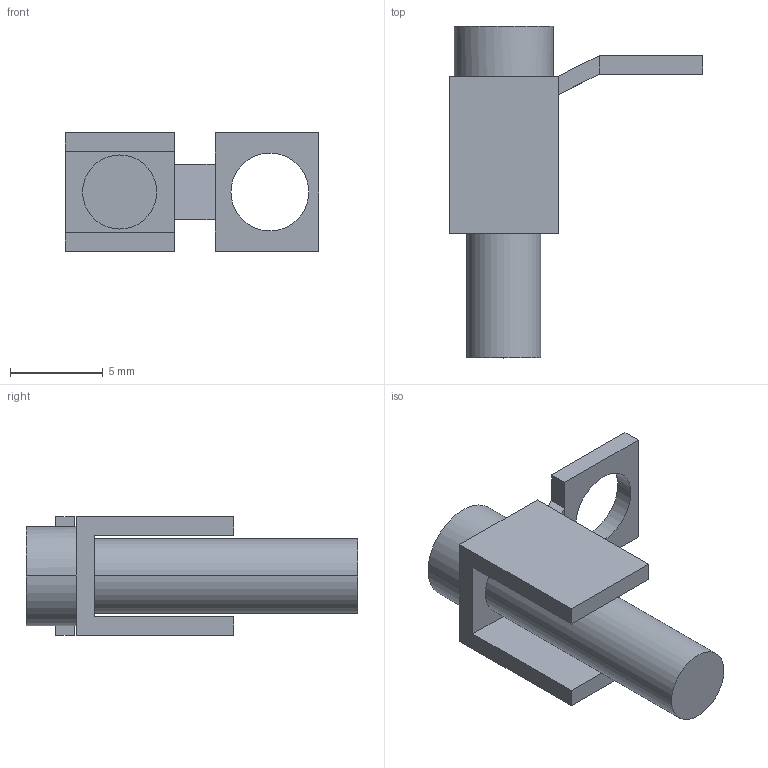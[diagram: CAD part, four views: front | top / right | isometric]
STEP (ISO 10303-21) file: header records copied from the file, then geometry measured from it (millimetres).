
FILE_DESCRIPTION(('SolidDesigner STEP Export'),'2;1');
FILE_NAME('0202206_KB_8-select.stp','2013-07-16T 8:23:29',(''),(''),'Creo Elements/Direct Modeling STEP processor for AP214 (Solid Model)','Creo Elements/Direct Modeling 18.1 06-May-2012 (C) Parametric Technology GmbH','');
FILE_SCHEMA(('AUTOMOTIVE_DESIGN { 1 0 10303 214 1 1 1 1 }'));
Length unit declared in the file: millimetre
Products named in the file (2): 0202206_KB_8-select
Assembly tree (1 placements, depth 2):
  0202206_KB_8-select
    0202206_KB_8-select
Bounding box: 13.7 x 17.9 x 6.4 mm (x, y, z)
Volume: 394 mm3; surface area: 625.3 mm2
Topology: 1 solids, 1 shells, 30 faces, 73 edges, 47 vertices
Faces by surface type: plane 24, cylinder 6
Entity records: 1056 total; most frequent: ORIENTED_EDGE 146, CARTESIAN_POINT 135, DIRECTION 122, EDGE_CURVE 73, VECTOR 54, LINE 54, VERTEX_POINT 47, AXIS2_PLACEMENT_3D 34
